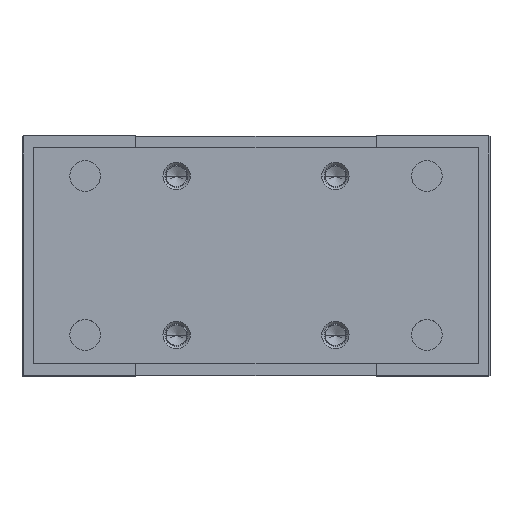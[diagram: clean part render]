
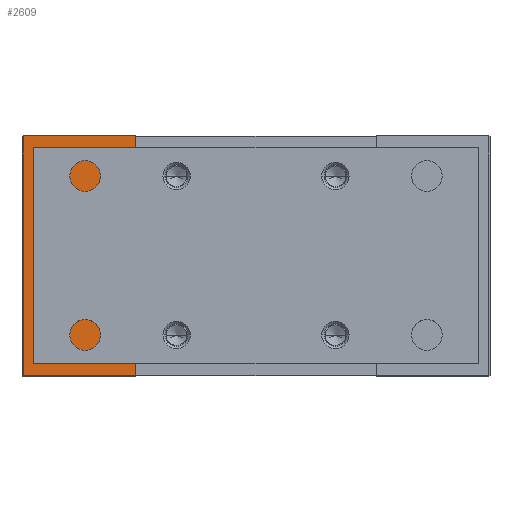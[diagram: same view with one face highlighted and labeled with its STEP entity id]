
A CAD part, top view. The second image highlights one B-rep face of the part: STEP entity #2609.
In plain terms, the highlighted planar face has unit normal (0, 0, 1).
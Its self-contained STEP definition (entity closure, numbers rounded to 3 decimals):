
#161 = CARTESIAN_POINT ( 'NONE',  ( -35.25, -35., 71. ) ) ;
#432 = ORIENTED_EDGE ( 'NONE', *, *, #10285, .F. ) ;
#525 = VERTEX_POINT ( 'NONE', #8827 ) ;
#659 = CARTESIAN_POINT ( 'NONE',  ( -68.2, 35., 71. ) ) ;
#975 = VERTEX_POINT ( 'NONE', #161 ) ;
#1039 = CARTESIAN_POINT ( 'NONE',  ( -52., 0., 71. ) ) ;
#1105 = CARTESIAN_POINT ( 'NONE',  ( -68.5, -35., 71. ) ) ;
#1611 = EDGE_CURVE ( 'NONE', #4702, #525, #9549, .T. ) ;
#1722 = CARTESIAN_POINT ( 'NONE',  ( -35.25, 35., 71. ) ) ;
#1783 = VERTEX_POINT ( 'NONE', #8275 ) ;
#1856 = CARTESIAN_POINT ( 'NONE',  ( -68.5, 35., 71. ) ) ;
#1868 = DIRECTION ( 'NONE',  ( 1., 0., 0. ) ) ;
#2609 = ADVANCED_FACE ( 'NONE', ( #4126, #4009 ), #7355, .F. ) ;
#2686 = LINE ( 'NONE', #1856, #7352 ) ;
#2818 = LINE ( 'NONE', #1105, #9160 ) ;
#2901 = EDGE_CURVE ( 'NONE', #1783, #3541, #8907, .T. ) ;
#3408 = EDGE_LOOP ( 'NONE', ( #8931, #4824, #5414, #432 ) ) ;
#3541 = VERTEX_POINT ( 'NONE', #8362 ) ;
#3999 = DIRECTION ( 'NONE',  ( 0., 0., 1. ) ) ;
#4009 = FACE_BOUND ( 'NONE', #8220, .T. ) ;
#4126 = FACE_OUTER_BOUND ( 'NONE', #3408, .T. ) ;
#4167 = CARTESIAN_POINT ( 'NONE',  ( -52., 0., 71. ) ) ;
#4393 = DIRECTION ( 'NONE',  ( 1., 0., 0. ) ) ;
#4493 = CARTESIAN_POINT ( 'NONE',  ( -68.2, 70., 71. ) ) ;
#4600 = AXIS2_PLACEMENT_3D ( 'NONE', #1039, #7042, #1868 ) ;
#4642 = VERTEX_POINT ( 'NONE', #4794 ) ;
#4702 = VERTEX_POINT ( 'NONE', #659 ) ;
#4794 = CARTESIAN_POINT ( 'NONE',  ( -35.25, 35., 71. ) ) ;
#4824 = ORIENTED_EDGE ( 'NONE', *, *, #1611, .T. ) ;
#5414 = ORIENTED_EDGE ( 'NONE', *, *, #10473, .T. ) ;
#5645 = ORIENTED_EDGE ( 'NONE', *, *, #2901, .F. ) ;
#5888 = CARTESIAN_POINT ( 'NONE',  ( -68.5, 35., 71. ) ) ;
#6740 = EDGE_CURVE ( 'NONE', #4702, #4642, #2686, .T. ) ;
#7042 = DIRECTION ( 'NONE',  ( 0., 0., 1. ) ) ;
#7169 = DIRECTION ( 'NONE',  ( 1., 0., 0. ) ) ;
#7352 = VECTOR ( 'NONE', #4393, 1000. ) ;
#7355 = PLANE ( 'NONE',  #8294 ) ;
#7412 = VECTOR ( 'NONE', #9371, 1000. ) ;
#7610 = LINE ( 'NONE', #1722, #7412 ) ;
#7954 = DIRECTION ( 'NONE',  ( 0., -1., 0. ) ) ;
#7958 = VECTOR ( 'NONE', #7954, 1000. ) ;
#8220 = EDGE_LOOP ( 'NONE', ( #5645, #9056 ) ) ;
#8275 = CARTESIAN_POINT ( 'NONE',  ( -62., 0., 71. ) ) ;
#8294 = AXIS2_PLACEMENT_3D ( 'NONE', #5888, #10806, #10699 ) ;
#8362 = CARTESIAN_POINT ( 'NONE',  ( -42., 0., 71. ) ) ;
#8724 = AXIS2_PLACEMENT_3D ( 'NONE', #4167, #3999, #9052 ) ;
#8827 = CARTESIAN_POINT ( 'NONE',  ( -68.2, -35., 71. ) ) ;
#8907 = CIRCLE ( 'NONE', #8724, 10. ) ;
#8931 = ORIENTED_EDGE ( 'NONE', *, *, #6740, .F. ) ;
#9052 = DIRECTION ( 'NONE',  ( 1., 0., 0. ) ) ;
#9056 = ORIENTED_EDGE ( 'NONE', *, *, #9608, .F. ) ;
#9160 = VECTOR ( 'NONE', #7169, 1000. ) ;
#9336 = CIRCLE ( 'NONE', #4600, 10. ) ;
#9371 = DIRECTION ( 'NONE',  ( 0., -1., 0. ) ) ;
#9549 = LINE ( 'NONE', #4493, #7958 ) ;
#9608 = EDGE_CURVE ( 'NONE', #3541, #1783, #9336, .T. ) ;
#10285 = EDGE_CURVE ( 'NONE', #4642, #975, #7610, .T. ) ;
#10473 = EDGE_CURVE ( 'NONE', #525, #975, #2818, .T. ) ;
#10699 = DIRECTION ( 'NONE',  ( 0., -1., 0. ) ) ;
#10806 = DIRECTION ( 'NONE',  ( 0., 0., -1. ) ) ;
